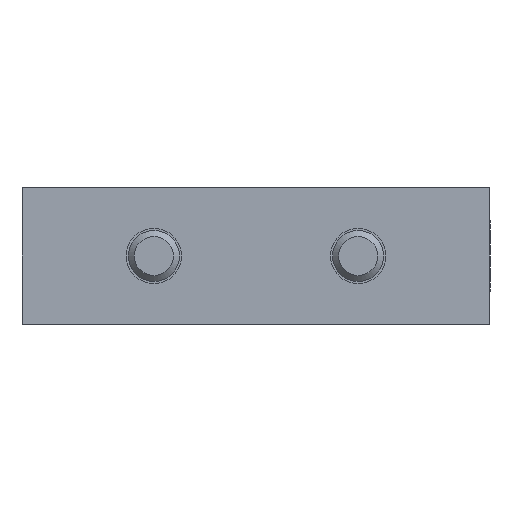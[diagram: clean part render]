
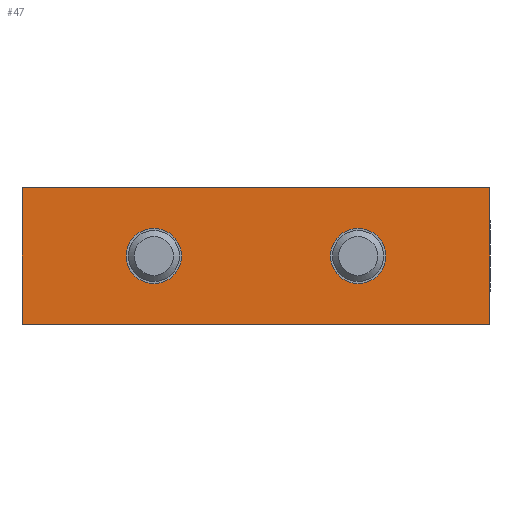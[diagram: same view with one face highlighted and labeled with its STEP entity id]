
A CAD part, front view. The second image highlights one B-rep face of the part: STEP entity #47.
In plain terms, the highlighted planar face has unit normal (0, -1, 0).
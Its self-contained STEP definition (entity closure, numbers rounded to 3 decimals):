
#29 = CIRCLE ( 'NONE', #1036, 3.25 ) ;
#47 = ADVANCED_FACE ( 'NONE', ( #161, #783, #872 ), #327, .F. ) ;
#77 = DIRECTION ( 'NONE',  ( 0., 0., 1. ) ) ;
#103 = EDGE_LOOP ( 'NONE', ( #801, #689, #144, #135 ) ) ;
#133 = AXIS2_PLACEMENT_3D ( 'NONE', #754, #289, #827 ) ;
#135 = ORIENTED_EDGE ( 'NONE', *, *, #1096, .F. ) ;
#144 = ORIENTED_EDGE ( 'NONE', *, *, #648, .T. ) ;
#161 = FACE_BOUND ( 'NONE', #511, .T. ) ;
#193 = VERTEX_POINT ( 'NONE', #885 ) ;
#285 = DIRECTION ( 'NONE',  ( 1., 0., 0. ) ) ;
#289 = DIRECTION ( 'NONE',  ( 0., 1., 0. ) ) ;
#306 = CARTESIAN_POINT ( 'NONE',  ( -12., 0., 3.25 ) ) ;
#313 = CARTESIAN_POINT ( 'NONE',  ( 27.5, 0., 8. ) ) ;
#327 = PLANE ( 'NONE',  #1056 ) ;
#335 = VECTOR ( 'NONE', #742, 1000. ) ;
#364 = ORIENTED_EDGE ( 'NONE', *, *, #733, .T. ) ;
#370 = VERTEX_POINT ( 'NONE', #922 ) ;
#388 = DIRECTION ( 'NONE',  ( 0., 1., 0. ) ) ;
#415 = VECTOR ( 'NONE', #1067, 1000. ) ;
#468 = CARTESIAN_POINT ( 'NONE',  ( -27.5, 0., 8. ) ) ;
#505 = EDGE_CURVE ( 'NONE', #704, #193, #906, .T. ) ;
#506 = DIRECTION ( 'NONE',  ( 0., 0., 1. ) ) ;
#511 = EDGE_LOOP ( 'NONE', ( #364 ) ) ;
#516 = EDGE_CURVE ( 'NONE', #704, #668, #899, .T. ) ;
#554 = CARTESIAN_POINT ( 'NONE',  ( 27.5, 0., -8. ) ) ;
#557 = VERTEX_POINT ( 'NONE', #306 ) ;
#567 = VERTEX_POINT ( 'NONE', #554 ) ;
#592 = DIRECTION ( 'NONE',  ( 0., 1., 0. ) ) ;
#604 = CIRCLE ( 'NONE', #133, 3.25 ) ;
#636 = LINE ( 'NONE', #991, #415 ) ;
#648 = EDGE_CURVE ( 'NONE', #193, #567, #1038, .T. ) ;
#668 = VERTEX_POINT ( 'NONE', #313 ) ;
#689 = ORIENTED_EDGE ( 'NONE', *, *, #505, .T. ) ;
#704 = VERTEX_POINT ( 'NONE', #933 ) ;
#733 = EDGE_CURVE ( 'NONE', #370, #370, #29, .T. ) ;
#742 = DIRECTION ( 'NONE',  ( 1., 0., 0. ) ) ;
#754 = CARTESIAN_POINT ( 'NONE',  ( -12., 0., 0. ) ) ;
#782 = EDGE_CURVE ( 'NONE', #557, #557, #604, .T. ) ;
#783 = FACE_BOUND ( 'NONE', #909, .T. ) ;
#801 = ORIENTED_EDGE ( 'NONE', *, *, #516, .F. ) ;
#827 = DIRECTION ( 'NONE',  ( 0., 0., 1. ) ) ;
#857 = CARTESIAN_POINT ( 'NONE',  ( 12., 0., 0. ) ) ;
#872 = FACE_OUTER_BOUND ( 'NONE', #103, .T. ) ;
#885 = CARTESIAN_POINT ( 'NONE',  ( -27.5, 0., -8. ) ) ;
#899 = LINE ( 'NONE', #468, #993 ) ;
#906 = LINE ( 'NONE', #912, #918 ) ;
#909 = EDGE_LOOP ( 'NONE', ( #1075 ) ) ;
#912 = CARTESIAN_POINT ( 'NONE',  ( -27.5, 0., 10. ) ) ;
#918 = VECTOR ( 'NONE', #1006, 1000. ) ;
#922 = CARTESIAN_POINT ( 'NONE',  ( 12., 0., 3.25 ) ) ;
#925 = CARTESIAN_POINT ( 'NONE',  ( -27.5, 0., -8. ) ) ;
#933 = CARTESIAN_POINT ( 'NONE',  ( -27.5, 0., 8. ) ) ;
#991 = CARTESIAN_POINT ( 'NONE',  ( 27.5, 0., 10. ) ) ;
#993 = VECTOR ( 'NONE', #285, 1000. ) ;
#1006 = DIRECTION ( 'NONE',  ( 0., 0., -1. ) ) ;
#1034 = CARTESIAN_POINT ( 'NONE',  ( 27.5, 0., 10. ) ) ;
#1036 = AXIS2_PLACEMENT_3D ( 'NONE', #857, #388, #77 ) ;
#1038 = LINE ( 'NONE', #925, #335 ) ;
#1056 = AXIS2_PLACEMENT_3D ( 'NONE', #1034, #592, #506 ) ;
#1067 = DIRECTION ( 'NONE',  ( 0., 0., -1. ) ) ;
#1075 = ORIENTED_EDGE ( 'NONE', *, *, #782, .T. ) ;
#1096 = EDGE_CURVE ( 'NONE', #668, #567, #636, .T. ) ;
